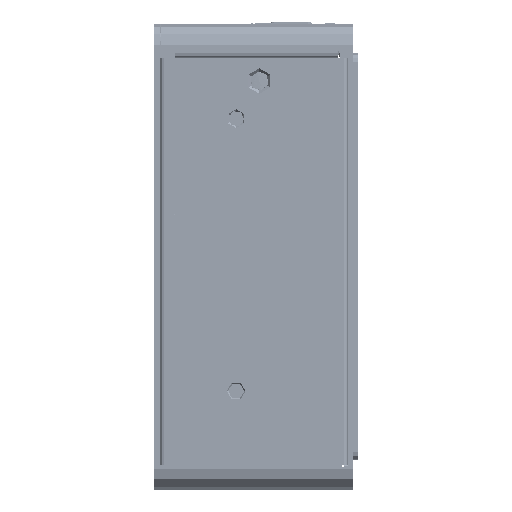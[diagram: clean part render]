
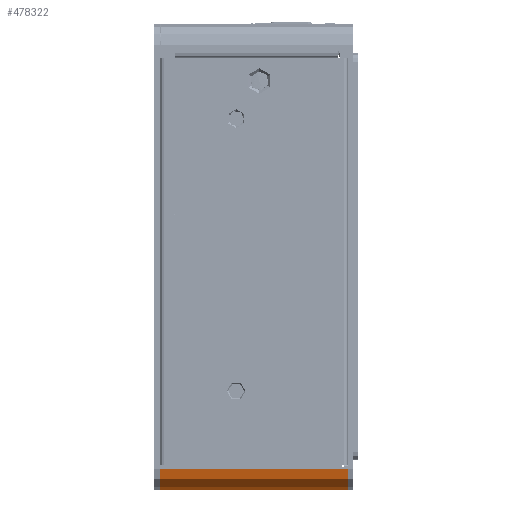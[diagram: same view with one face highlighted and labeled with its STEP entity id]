
A CAD part, left-side view. The second image highlights one B-rep face of the part: STEP entity #478322.
In plain terms, the highlighted cylindrical face has radius 5 mm (diameter 10 mm), a partial arc.
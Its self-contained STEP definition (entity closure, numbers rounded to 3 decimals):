
#6550 = ORIENTED_EDGE ( 'NONE', *, *, #366529, .T. ) ;
#20022 = DIRECTION ( 'NONE',  ( 0., 0., -1. ) ) ;
#25025 = DIRECTION ( 'NONE',  ( 0., -1., 0. ) ) ;
#27478 = DIRECTION ( 'NONE',  ( 0., 0., -1. ) ) ;
#45451 = DIRECTION ( 'NONE',  ( 0., 0., -1. ) ) ;
#53070 = LINE ( 'NONE', #443816, #188788 ) ;
#55951 = VECTOR ( 'NONE', #448835, 1000. ) ;
#92468 = ORIENTED_EDGE ( 'NONE', *, *, #148438, .F. ) ;
#106609 = FACE_OUTER_BOUND ( 'NONE', #426212, .T. ) ;
#123354 = CIRCLE ( 'NONE', #164198, 5. ) ;
#129689 = DIRECTION ( 'NONE',  ( 0., -1., 0. ) ) ;
#139817 = EDGE_CURVE ( 'NONE', #359350, #461360, #500143, .T. ) ;
#142351 = CARTESIAN_POINT ( 'NONE',  ( -92.5, 44.4, -110. ) ) ;
#148438 = EDGE_CURVE ( 'NONE', #207964, #359350, #175592, .T. ) ;
#152480 = CYLINDRICAL_SURFACE ( 'NONE', #314841, 5. ) ;
#164198 = AXIS2_PLACEMENT_3D ( 'NONE', #395347, #464443, #45451 ) ;
#175592 = LINE ( 'NONE', #331343, #55951 ) ;
#188788 = VECTOR ( 'NONE', #129689, 1000. ) ;
#207964 = VERTEX_POINT ( 'NONE', #432420 ) ;
#279639 = VERTEX_POINT ( 'NONE', #142351 ) ;
#303239 = CARTESIAN_POINT ( 'NONE',  ( -92.5, 369.4, -105. ) ) ;
#314841 = AXIS2_PLACEMENT_3D ( 'NONE', #303239, #428283, #27478 ) ;
#331343 = CARTESIAN_POINT ( 'NONE',  ( -97.5, 42.8, -105. ) ) ;
#334068 = CARTESIAN_POINT ( 'NONE',  ( -92.5, 0., -105. ) ) ;
#359350 = VERTEX_POINT ( 'NONE', #389660 ) ;
#360591 = ORIENTED_EDGE ( 'NONE', *, *, #408683, .F. ) ;
#366529 = EDGE_CURVE ( 'NONE', #279639, #461360, #53070, .T. ) ;
#389660 = CARTESIAN_POINT ( 'NONE',  ( -97.5, 0., -105. ) ) ;
#394405 = AXIS2_PLACEMENT_3D ( 'NONE', #334068, #25025, #20022 ) ;
#394664 = ORIENTED_EDGE ( 'NONE', *, *, #139817, .F. ) ;
#395347 = CARTESIAN_POINT ( 'NONE',  ( -92.5, 44.4, -105. ) ) ;
#408683 = EDGE_CURVE ( 'NONE', #279639, #207964, #123354, .T. ) ;
#426212 = EDGE_LOOP ( 'NONE', ( #394664, #92468, #360591, #6550 ) ) ;
#428283 = DIRECTION ( 'NONE',  ( 0., -1., 0. ) ) ;
#432420 = CARTESIAN_POINT ( 'NONE',  ( -97.5, 44.4, -105. ) ) ;
#443816 = CARTESIAN_POINT ( 'NONE',  ( -92.5, 369.4, -110. ) ) ;
#448835 = DIRECTION ( 'NONE',  ( 0., -1., 0. ) ) ;
#456284 = CARTESIAN_POINT ( 'NONE',  ( -92.5, 0., -110. ) ) ;
#461360 = VERTEX_POINT ( 'NONE', #456284 ) ;
#464443 = DIRECTION ( 'NONE',  ( 0., 1., 0. ) ) ;
#478322 = ADVANCED_FACE ( 'NONE', ( #106609 ), #152480, .T. ) ;
#500143 = CIRCLE ( 'NONE', #394405, 5. ) ;
